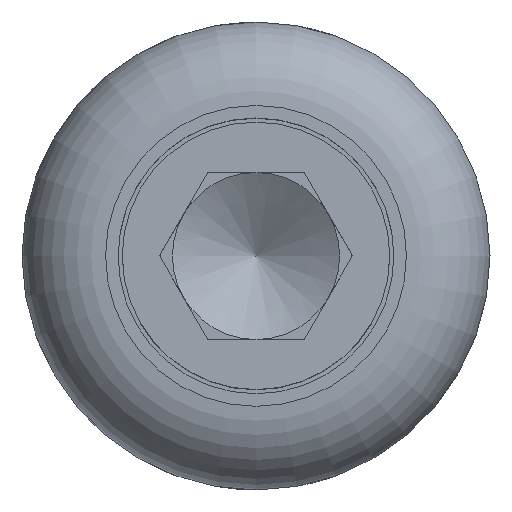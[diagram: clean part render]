
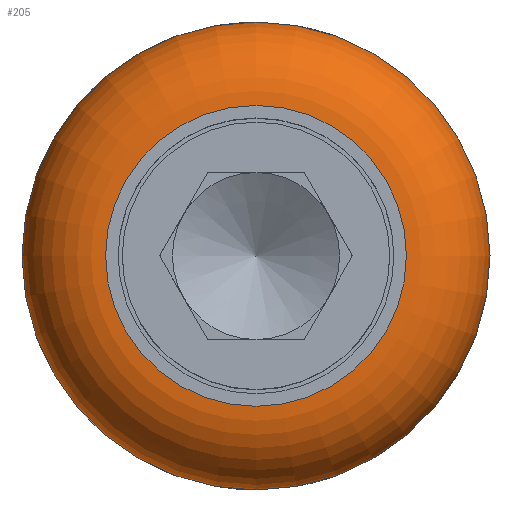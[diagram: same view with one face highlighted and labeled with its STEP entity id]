
A CAD part, top view. The second image highlights one B-rep face of the part: STEP entity #205.
In plain terms, the highlighted toroidal (fillet/blend) face has major radius 9 mm and minor radius 5 mm.
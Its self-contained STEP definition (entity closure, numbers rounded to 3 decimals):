
#153=CARTESIAN_POINT('',(14.,0.,-5.));
#154=VERTEX_POINT('',#153);
#162=CARTESIAN_POINT('',(0.,0.,-5.));
#163=DIRECTION('',(1.,0.,-0.));
#164=DIRECTION('',(0.,0.,1.));
#165=AXIS2_PLACEMENT_3D('',#162,#164,#163);
#166=CIRCLE('',#165,14.);
#167=EDGE_CURVE('',#154,#154,#166,.T.);
#180=CARTESIAN_POINT('',(0.,0.,-5.));
#181=DIRECTION('',(1.,0.,0.));
#182=DIRECTION('',(0.,0.,-1.));
#183=AXIS2_PLACEMENT_3D('',#180,#182,#181);
#184=TOROIDAL_SURFACE('',#183,9.,5.);
#185=CARTESIAN_POINT('',(9.,0.,0.));
#186=VERTEX_POINT('',#185);
#187=CARTESIAN_POINT('',(9.,0.,-5.));
#188=DIRECTION('',(1.,0.,0.));
#189=DIRECTION('',(-0.,-1.,0.));
#190=AXIS2_PLACEMENT_3D('',#187,#189,#188);
#191=CIRCLE('',#190,5.);
#192=EDGE_CURVE('',#154,#186,#191,.T.);
#193=ORIENTED_EDGE('E2',*,*,#192,.T.);
#194=CARTESIAN_POINT('',(0.,0.,0.));
#195=DIRECTION('',(1.,0.,-0.));
#196=DIRECTION('',(0.,-0.,1.));
#197=AXIS2_PLACEMENT_3D('',#194,#196,#195);
#198=CIRCLE('',#197,9.);
#199=EDGE_CURVE('',#186,#186,#198,.T.);
#200=ORIENTED_EDGE('E5',*,*,#199,.T.);
#201=ORIENTED_EDGE('E5',*,*,#192,.F.);
#202=ORIENTED_EDGE('E5',*,*,#167,.F.);
#203=EDGE_LOOP('',(#193,#200,#201,#202));
#204=FACE_OUTER_BOUND('',#203,.F.);
#205=ADVANCED_FACE('F3',(#204),#184,.T.);
